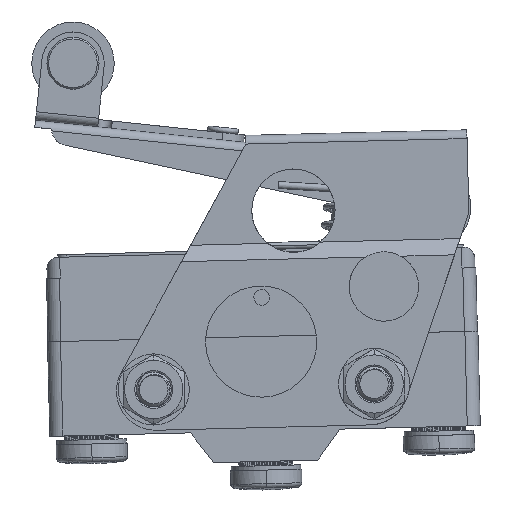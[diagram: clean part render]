
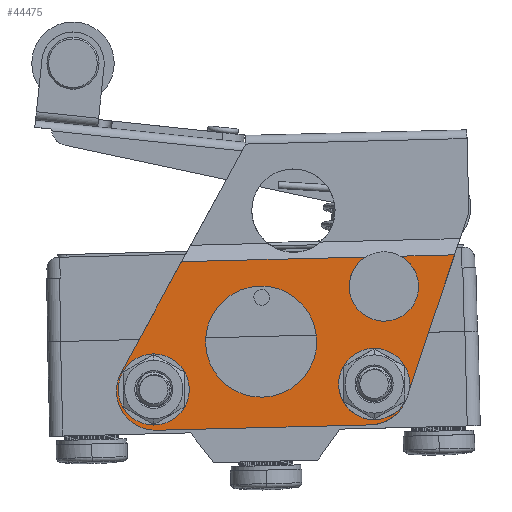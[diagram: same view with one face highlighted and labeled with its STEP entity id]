
A CAD part, left-side view. The second image highlights one B-rep face of the part: STEP entity #44475.
In plain terms, the highlighted planar face has unit normal (-1, 0, 0).
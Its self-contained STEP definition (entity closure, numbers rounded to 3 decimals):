
#12520=CARTESIAN_POINT('',(0.,927.386,
-400.725));
#12526=CARTESIAN_POINT('',(0.,824.019,
-398.148));
#12640=CARTESIAN_POINT('',(0.,1232.832,
-648.277));
#12641=DIRECTION('',(-1.,0.,0.));
#12642=DIRECTION('',(0.,-1.,0.025));
#12643=AXIS2_PLACEMENT_3D('',#12640,#12641,#12642);
#12645=CARTESIAN_POINT('',(0.,1232.832,
-648.277));
#12646=DIRECTION('',(-1.,0.,0.));
#12647=DIRECTION('',(0.,1.,-0.025));
#12648=AXIS2_PLACEMENT_3D('',#12645,#12646,#12647);
#12650=CARTESIAN_POINT('',(0.,901.982,
-772.15));
#12651=DIRECTION('',(1.,0.,0.));
#12652=DIRECTION('',(0.,-1.,0.));
#12653=AXIS2_PLACEMENT_3D('',#12650,#12651,#12652);
#12655=CARTESIAN_POINT('',(0.,901.982,
-772.15));
#12656=DIRECTION('',(1.,0.,0.));
#12657=DIRECTION('',(0.,1.,0.));
#12658=AXIS2_PLACEMENT_3D('',#12655,#12656,#12657);
#12660=CARTESIAN_POINT('',(0.,901.982,
-772.15));
#12661=DIRECTION('',(1.,0.,0.));
#12662=DIRECTION('',(0.,-0.87,-0.493));
#12663=AXIS2_PLACEMENT_3D('',#12660,#12661,#12662);
#12665=CARTESIAN_POINT('',(0.,916.05,
-777.582));
#12666=DIRECTION('',(1.,0.,0.));
#12667=DIRECTION('',(0.,-0.916,-0.401));
#12668=AXIS2_PLACEMENT_3D('',#12665,#12666,#12667);
#12670=CARTESIAN_POINT('',(0.,1541.736,
-793.181));
#12671=DIRECTION('',(1.,0.,0.));
#12672=DIRECTION('',(0.,-0.025,-1.));
#12673=AXIS2_PLACEMENT_3D('',#12670,#12671,#12672);
#12675=CARTESIAN_POINT('',(0.,1541.736,
-793.181));
#12676=DIRECTION('',(1.,0.,0.));
#12677=DIRECTION('',(0.,1.,-0.025));
#12678=AXIS2_PLACEMENT_3D('',#12675,#12676,#12677);
#12680=DIRECTION('',(0.,-0.478,0.878));
#12681=VECTOR('',#12680,369.357);
#12682=CARTESIAN_POINT('',(0.,1642.117,
-738.516));
#12683=LINE('',#12682,#12681);
#12684=DIRECTION('',(0.,-1.,0.025));
#12685=VECTOR('',#12684,538.248);
#12686=CARTESIAN_POINT('',(0.,1465.468,
-414.14));
#12687=LINE('',#12686,#12685);
#12688=CARTESIAN_POINT('',(0.,873.523,
-486.872));
#12689=DIRECTION('',(-1.,0.,0.));
#12690=DIRECTION('',(0.,0.53,0.848));
#12691=AXIS2_PLACEMENT_3D('',#12688,#12689,#12690);
#12693=CARTESIAN_POINT('',(0.,873.523,
-486.872));
#12694=DIRECTION('',(-1.,0.,0.));
#12695=DIRECTION('',(0.,1.,-0.025));
#12696=AXIS2_PLACEMENT_3D('',#12693,#12694,#12695);
#12698=CARTESIAN_POINT('',(0.,873.523,
-486.872));
#12699=DIRECTION('',(-1.,0.,0.));
#12700=DIRECTION('',(0.,-1.,0.025));
#12701=AXIS2_PLACEMENT_3D('',#12698,#12699,#12700);
#12703=DIRECTION('',(0.,-1.,0.025));
#12704=VECTOR('',#12703,157.402);
#12705=CARTESIAN_POINT('',(0.,824.019,
-398.148));
#12706=LINE('',#12705,#12704);
#12707=DIRECTION('',(0.,0.318,-0.948));
#12708=VECTOR('',#12707,415.902);
#12709=CARTESIAN_POINT('',(0.,666.666,
-394.225));
#12710=LINE('',#12709,#12708);
#12855=CARTESIAN_POINT('',(0.,1546.941,
-788.229));
#12856=DIRECTION('',(1.,0.,0.));
#12857=DIRECTION('',(0.,-1.,0.));
#12858=AXIS2_PLACEMENT_3D('',#12855,#12856,#12857);
#12860=CARTESIAN_POINT('',(0.,1546.941,
-788.229));
#12861=DIRECTION('',(1.,0.,0.));
#12862=DIRECTION('',(0.,1.,0.));
#12863=AXIS2_PLACEMENT_3D('',#12860,#12861,#12862);
#13062=DIRECTION('',(0.,-1.,0.025));
#13063=VECTOR('',#13062,625.881);
#13064=CARTESIAN_POINT('',(0.,1538.888,
-907.445));
#13065=LINE('',#13064,#13063);
#25148=VERTEX_POINT('',#12520);
#25149=VERTEX_POINT('',#12526);
#25150=CARTESIAN_POINT('',(0.,1465.468,
-414.14));
#25151=VERTEX_POINT('',#25150);
#25152=CARTESIAN_POINT('',(0.,666.666,
-394.225));
#25153=VERTEX_POINT('',#25152);
#25186=CARTESIAN_POINT('',(0.,975.091,
-489.404));
#25187=VERTEX_POINT('',#25186);
#25188=CARTESIAN_POINT('',(0.,771.954,
-484.34));
#25189=VERTEX_POINT('',#25188);
#25190=CARTESIAN_POINT('',(0.,1538.888,
-907.445));
#25191=CARTESIAN_POINT('',(0.,913.201,
-891.847));
#25192=VERTEX_POINT('',#25190);
#25193=VERTEX_POINT('',#25191);
#25194=CARTESIAN_POINT('',(0.,1656.001,
-796.029));
#25195=VERTEX_POINT('',#25194);
#25196=CARTESIAN_POINT('',(0.,1642.117,
-738.516));
#25197=VERTEX_POINT('',#25196);
#25198=CARTESIAN_POINT('',(0.,1070.322,
-644.226));
#25199=CARTESIAN_POINT('',(0.,1395.341,
-652.328));
#25200=VERTEX_POINT('',#25198);
#25201=VERTEX_POINT('',#25199);
#28035=CARTESIAN_POINT('',(0.,799.128,
-788.469));
#28037=VERTEX_POINT('',#28035);
#28038=CARTESIAN_POINT('',(0.,797.842,
-772.15));
#28039=VERTEX_POINT('',#28038);
#28040=CARTESIAN_POINT('',(0.,811.367,
-823.473));
#28041=CARTESIAN_POINT('',(0.,1006.122,
-772.15));
#28042=VERTEX_POINT('',#28040);
#28043=VERTEX_POINT('',#28041);
#28112=CARTESIAN_POINT('',(0.,1442.801,
-788.229));
#28113=CARTESIAN_POINT('',(0.,1651.081,
-788.229));
#28114=VERTEX_POINT('',#28112);
#28115=VERTEX_POINT('',#28113);
#44435=CARTESIAN_POINT('',(0.,1159.909,
-652.26));
#44436=DIRECTION('',(1.,0.,0.));
#44437=DIRECTION('',(0.,0.025,1.));
#44438=AXIS2_PLACEMENT_3D('',#44435,#44436,#44437);
#44439=PLANE('',#44438);
#44441=ORIENTED_EDGE('',*,*,#44440,.F.);
#44443=ORIENTED_EDGE('',*,*,#44442,.F.);
#44445=ORIENTED_EDGE('',*,*,#44444,.F.);
#44447=ORIENTED_EDGE('',*,*,#44446,.T.);
#44449=ORIENTED_EDGE('',*,*,#44448,.F.);
#44450=ORIENTED_EDGE('',*,*,#44428,.T.);
#44451=ORIENTED_EDGE('',*,*,#44426,.T.);
#44452=ORIENTED_EDGE('',*,*,#44300,.T.);
#44453=ORIENTED_EDGE('',*,*,#44320,.T.);
#44454=ORIENTED_EDGE('',*,*,#44344,.T.);
#44456=ORIENTED_EDGE('',*,*,#44455,.T.);
#44457=ORIENTED_EDGE('',*,*,#44347,.T.);
#44458=ORIENTED_EDGE('',*,*,#44328,.T.);
#44460=ORIENTED_EDGE('',*,*,#44459,.T.);
#44461=EDGE_LOOP('',(#44441,#44443,#44445,#44447,#44449,#44450,#44451,#44452,
#44453,#44454,#44456,#44457,#44458,#44460));
#44462=FACE_OUTER_BOUND('',#44461,.F.);
#44464=ORIENTED_EDGE('',*,*,#44463,.T.);
#44466=ORIENTED_EDGE('',*,*,#44465,.T.);
#44467=EDGE_LOOP('',(#44464,#44466));
#44468=FACE_BOUND('',#44467,.F.);
#44470=ORIENTED_EDGE('',*,*,#44469,.F.);
#44472=ORIENTED_EDGE('',*,*,#44471,.F.);
#44473=EDGE_LOOP('',(#44470,#44472));
#44474=FACE_BOUND('',#44473,.F.);
#44475=ADVANCED_FACE('',(#44462,#44468,#44474),#44439,.F.);
#12644=CIRCLE('',#12643,162.56);
#12649=CIRCLE('',#12648,162.56);
#12654=CIRCLE('',#12653,104.14);
#12659=CIRCLE('',#12658,104.14);
#12664=CIRCLE('',#12663,104.14);
#12669=CIRCLE('',#12668,114.3);
#12674=CIRCLE('',#12673,114.3);
#12679=CIRCLE('',#12678,114.3);
#12692=CIRCLE('',#12691,101.6);
#12697=CIRCLE('',#12696,101.6);
#12702=CIRCLE('',#12701,101.6);
#12859=CIRCLE('',#12858,104.14);
#12864=CIRCLE('',#12863,104.14);
#44300=EDGE_CURVE('',#25197,#25151,#12683,.T.);
#44320=EDGE_CURVE('',#25151,#25148,#12687,.T.);
#44328=EDGE_CURVE('',#25149,#25153,#12706,.T.);
#44344=EDGE_CURVE('',#25148,#25187,#12692,.T.);
#44347=EDGE_CURVE('',#25189,#25149,#12702,.T.);
#44426=EDGE_CURVE('',#25195,#25197,#12679,.T.);
#44428=EDGE_CURVE('',#25192,#25195,#12674,.T.);
#44440=EDGE_CURVE('',#28039,#28037,#12654,.T.);
#44442=EDGE_CURVE('',#28043,#28039,#12659,.T.);
#44444=EDGE_CURVE('',#28042,#28043,#12664,.T.);
#44446=EDGE_CURVE('',#28042,#25193,#12669,.T.);
#44448=EDGE_CURVE('',#25192,#25193,#13065,.T.);
#44455=EDGE_CURVE('',#25187,#25189,#12697,.T.);
#44459=EDGE_CURVE('',#25153,#28037,#12710,.T.);
#44463=EDGE_CURVE('',#25200,#25201,#12644,.T.);
#44465=EDGE_CURVE('',#25201,#25200,#12649,.T.);
#44469=EDGE_CURVE('',#28114,#28115,#12859,.T.);
#44471=EDGE_CURVE('',#28115,#28114,#12864,.T.);
